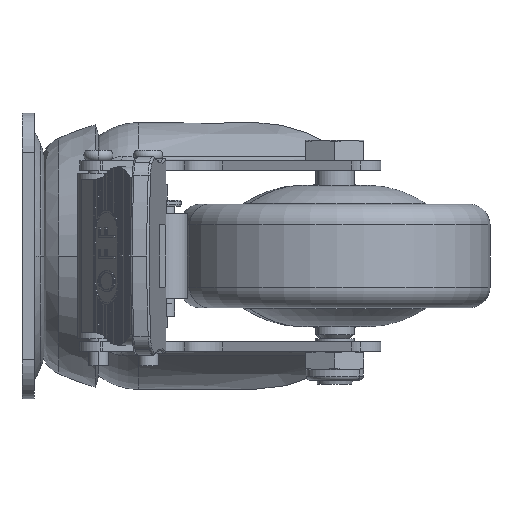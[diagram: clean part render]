
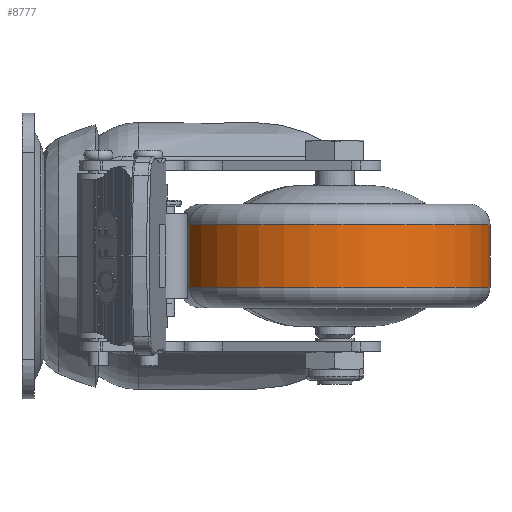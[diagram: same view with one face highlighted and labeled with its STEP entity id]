
A CAD part, left-side view. The second image highlights one B-rep face of the part: STEP entity #8777.
In plain terms, the highlighted cylindrical face has radius 37.5 mm (diameter 75 mm), a partial arc.
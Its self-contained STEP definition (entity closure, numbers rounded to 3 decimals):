
#256 = CIRCLE ( 'NONE', #7717, 37.5 ) ;
#566 = EDGE_CURVE ( 'NONE', #7864, #21438, #5057, .T. ) ;
#785 = FACE_OUTER_BOUND ( 'NONE', #1406, .T. ) ;
#1246 = DIRECTION ( 'NONE',  ( 1., 0., 0. ) ) ;
#1406 = EDGE_LOOP ( 'NONE', ( #10530, #11995, #2491, #16123 ) ) ;
#1467 = EDGE_CURVE ( 'NONE', #7864, #16285, #5630, .T. ) ;
#1740 = CARTESIAN_POINT ( 'NONE',  ( -7.5, 0., 0. ) ) ;
#2491 = ORIENTED_EDGE ( 'NONE', *, *, #17874, .F. ) ;
#3756 = CARTESIAN_POINT ( 'NONE',  ( -7.5, -37.5, 0. ) ) ;
#4624 = DIRECTION ( 'NONE',  ( 0., 1., 0. ) ) ;
#4932 = DIRECTION ( 'NONE',  ( 1., 0., 0. ) ) ;
#5057 = CIRCLE ( 'NONE', #12905, 37.5 ) ;
#5058 = CARTESIAN_POINT ( 'NONE',  ( 19.185, -37.5, 0. ) ) ;
#5630 = LINE ( 'NONE', #9593, #9580 ) ;
#6027 = CARTESIAN_POINT ( 'NONE',  ( 7.5, -37.5, 0. ) ) ;
#6708 = LINE ( 'NONE', #5058, #20093 ) ;
#7451 = DIRECTION ( 'NONE',  ( 1., 0., 0. ) ) ;
#7717 = AXIS2_PLACEMENT_3D ( 'NONE', #19959, #4932, #19303 ) ;
#7728 = DIRECTION ( 'NONE',  ( 1., 0., 0. ) ) ;
#7864 = VERTEX_POINT ( 'NONE', #18705 ) ;
#8708 = AXIS2_PLACEMENT_3D ( 'NONE', #13280, #1246, #4624 ) ;
#8777 = ADVANCED_FACE ( 'NONE', ( #785 ), #15031, .T. ) ;
#9082 = DIRECTION ( 'NONE',  ( 0., 1., 0. ) ) ;
#9580 = VECTOR ( 'NONE', #7728, 1000. ) ;
#9593 = CARTESIAN_POINT ( 'NONE',  ( 19.185, 37.5, 0. ) ) ;
#10530 = ORIENTED_EDGE ( 'NONE', *, *, #566, .T. ) ;
#11995 = ORIENTED_EDGE ( 'NONE', *, *, #21977, .T. ) ;
#12905 = AXIS2_PLACEMENT_3D ( 'NONE', #1740, #7451, #9082 ) ;
#13280 = CARTESIAN_POINT ( 'NONE',  ( 19.185, 0., 0. ) ) ;
#13831 = DIRECTION ( 'NONE',  ( 1., 0., 0. ) ) ;
#15031 = CYLINDRICAL_SURFACE ( 'NONE', #8708, 37.5 ) ;
#16123 = ORIENTED_EDGE ( 'NONE', *, *, #1467, .F. ) ;
#16285 = VERTEX_POINT ( 'NONE', #22078 ) ;
#17278 = VERTEX_POINT ( 'NONE', #6027 ) ;
#17874 = EDGE_CURVE ( 'NONE', #16285, #17278, #256, .T. ) ;
#18705 = CARTESIAN_POINT ( 'NONE',  ( -7.5, 37.5, 0. ) ) ;
#19303 = DIRECTION ( 'NONE',  ( 0., 1., 0. ) ) ;
#19959 = CARTESIAN_POINT ( 'NONE',  ( 7.5, 0., 0. ) ) ;
#20093 = VECTOR ( 'NONE', #13831, 1000. ) ;
#21438 = VERTEX_POINT ( 'NONE', #3756 ) ;
#21977 = EDGE_CURVE ( 'NONE', #21438, #17278, #6708, .T. ) ;
#22078 = CARTESIAN_POINT ( 'NONE',  ( 7.5, 37.5, 0. ) ) ;
